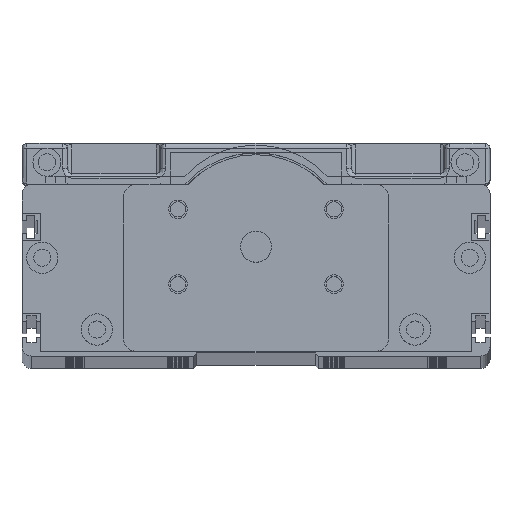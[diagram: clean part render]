
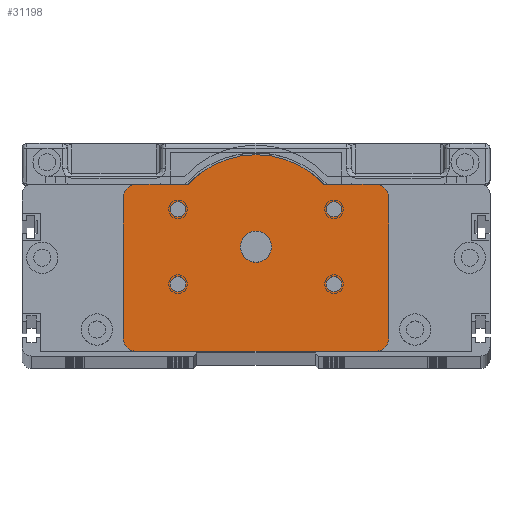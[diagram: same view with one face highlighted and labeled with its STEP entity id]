
A CAD part, top view. The second image highlights one B-rep face of the part: STEP entity #31198.
In plain terms, the highlighted planar face has unit normal (0, 0, 1).
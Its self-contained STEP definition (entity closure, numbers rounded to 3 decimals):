
#29840=CARTESIAN_POINT('',(38.5,49.5,29.));
#29841=DIRECTION('',(0.,0.,1.));
#29842=DIRECTION('',(1.,0.,0.));
#29843=AXIS2_PLACEMENT_3D('',#29840,#29841,#29842);
#29849=CARTESIAN_POINT('',(38.5,4.,29.));
#29850=DIRECTION('',(0.,0.,1.));
#29851=DIRECTION('',(0.,-1.,0.));
#29852=AXIS2_PLACEMENT_3D('',#29849,#29850,#29851);
#30001=CARTESIAN_POINT('',(-38.5,49.5,29.));
#30002=DIRECTION('',(0.,0.,1.));
#30003=DIRECTION('',(0.,1.,0.));
#30004=AXIS2_PLACEMENT_3D('',#30001,#30002,#30003);
#30015=DIRECTION('',(0.,1.,0.));
#30016=VECTOR('',#30015,45.5);
#30017=CARTESIAN_POINT('',(42.5,4.,29.));
#30018=LINE('',#30017,#30016);
#30019=DIRECTION('',(1.,0.,0.));
#30020=VECTOR('',#30019,77.);
#30021=CARTESIAN_POINT('',(-38.5,0.,29.));
#30022=LINE('',#30021,#30020);
#30023=DIRECTION('',(0.,1.,0.));
#30024=VECTOR('',#30023,45.5);
#30025=CARTESIAN_POINT('',(-42.5,4.,29.));
#30026=LINE('',#30025,#30024);
#30027=DIRECTION('',(-1.,0.,0.));
#30028=VECTOR('',#30027,16.815);
#30029=CARTESIAN_POINT('',(-21.685,53.5,29.));
#30030=LINE('',#30029,#30028);
#30031=CARTESIAN_POINT('',(0.,33.5,29.));
#30032=DIRECTION('',(0.,0.,1.));
#30033=DIRECTION('',(0.735,0.678,0.));
#30034=AXIS2_PLACEMENT_3D('',#30031,#30032,#30033);
#30036=DIRECTION('',(-1.,0.,0.));
#30037=VECTOR('',#30036,16.815);
#30038=CARTESIAN_POINT('',(38.5,53.5,29.));
#30039=LINE('',#30038,#30037);
#30040=CARTESIAN_POINT('',(0.,33.5,29.));
#30041=DIRECTION('',(0.,0.,1.));
#30042=DIRECTION('',(1.,0.,0.));
#30043=AXIS2_PLACEMENT_3D('',#30040,#30041,#30042);
#30045=CARTESIAN_POINT('',(0.,33.5,29.));
#30046=DIRECTION('',(0.,0.,1.));
#30047=DIRECTION('',(-1.,0.,0.));
#30048=AXIS2_PLACEMENT_3D('',#30045,#30046,#30047);
#30050=CARTESIAN_POINT('',(25.,45.5,29.));
#30051=DIRECTION('',(0.,0.,-1.));
#30052=DIRECTION('',(-1.,0.,0.));
#30053=AXIS2_PLACEMENT_3D('',#30050,#30051,#30052);
#30055=CARTESIAN_POINT('',(25.,45.5,29.));
#30056=DIRECTION('',(0.,0.,-1.));
#30057=DIRECTION('',(1.,0.,0.));
#30058=AXIS2_PLACEMENT_3D('',#30055,#30056,#30057);
#30060=CARTESIAN_POINT('',(25.,21.5,29.));
#30061=DIRECTION('',(0.,0.,1.));
#30062=DIRECTION('',(-1.,0.,0.));
#30063=AXIS2_PLACEMENT_3D('',#30060,#30061,#30062);
#30065=CARTESIAN_POINT('',(25.,21.5,29.));
#30066=DIRECTION('',(0.,0.,1.));
#30067=DIRECTION('',(1.,0.,0.));
#30068=AXIS2_PLACEMENT_3D('',#30065,#30066,#30067);
#30070=CARTESIAN_POINT('',(-25.,45.5,29.));
#30071=DIRECTION('',(0.,0.,1.));
#30072=DIRECTION('',(1.,0.,0.));
#30073=AXIS2_PLACEMENT_3D('',#30070,#30071,#30072);
#30075=CARTESIAN_POINT('',(-25.,45.5,29.));
#30076=DIRECTION('',(0.,0.,1.));
#30077=DIRECTION('',(-1.,0.,0.));
#30078=AXIS2_PLACEMENT_3D('',#30075,#30076,#30077);
#30080=CARTESIAN_POINT('',(-25.,21.5,29.));
#30081=DIRECTION('',(0.,0.,-1.));
#30082=DIRECTION('',(1.,0.,0.));
#30083=AXIS2_PLACEMENT_3D('',#30080,#30081,#30082);
#30085=CARTESIAN_POINT('',(-25.,21.5,29.));
#30086=DIRECTION('',(0.,0.,-1.));
#30087=DIRECTION('',(-1.,0.,0.));
#30088=AXIS2_PLACEMENT_3D('',#30085,#30086,#30087);
#30103=CARTESIAN_POINT('',(-38.5,4.,29.));
#30104=DIRECTION('',(0.,0.,1.));
#30105=DIRECTION('',(-1.,0.,0.));
#30106=AXIS2_PLACEMENT_3D('',#30103,#30104,#30105);
#30332=CARTESIAN_POINT('',(21.685,53.5,29.));
#30333=CARTESIAN_POINT('',(-21.685,53.5,29.));
#30334=VERTEX_POINT('',#30332);
#30335=VERTEX_POINT('',#30333);
#30380=CARTESIAN_POINT('',(38.5,53.5,29.));
#30382=VERTEX_POINT('',#30380);
#30384=CARTESIAN_POINT('',(42.5,49.5,29.));
#30386=VERTEX_POINT('',#30384);
#30389=CARTESIAN_POINT('',(38.5,0.,29.));
#30391=VERTEX_POINT('',#30389);
#30392=CARTESIAN_POINT('',(42.5,4.,29.));
#30393=VERTEX_POINT('',#30392);
#30397=CARTESIAN_POINT('',(-38.5,53.5,29.));
#30399=VERTEX_POINT('',#30397);
#30400=CARTESIAN_POINT('',(-42.5,49.5,29.));
#30401=VERTEX_POINT('',#30400);
#30404=CARTESIAN_POINT('',(-38.5,0.,29.));
#30406=VERTEX_POINT('',#30404);
#30408=CARTESIAN_POINT('',(-42.5,4.,29.));
#30410=VERTEX_POINT('',#30408);
#30420=CARTESIAN_POINT('',(22.5,45.5,29.));
#30421=CARTESIAN_POINT('',(27.5,45.5,29.));
#30422=VERTEX_POINT('',#30420);
#30423=VERTEX_POINT('',#30421);
#30428=CARTESIAN_POINT('',(22.5,21.5,29.));
#30429=CARTESIAN_POINT('',(27.5,21.5,29.));
#30430=VERTEX_POINT('',#30428);
#30431=VERTEX_POINT('',#30429);
#30436=CARTESIAN_POINT('',(-22.5,45.5,29.));
#30437=CARTESIAN_POINT('',(-27.5,45.5,29.));
#30438=VERTEX_POINT('',#30436);
#30439=VERTEX_POINT('',#30437);
#30444=CARTESIAN_POINT('',(-22.5,21.5,29.));
#30445=CARTESIAN_POINT('',(-27.5,21.5,29.));
#30446=VERTEX_POINT('',#30444);
#30447=VERTEX_POINT('',#30445);
#30568=CARTESIAN_POINT('',(5.,33.5,29.));
#30569=CARTESIAN_POINT('',(-5.,33.5,29.));
#30570=VERTEX_POINT('',#30568);
#30571=VERTEX_POINT('',#30569);
#31148=CARTESIAN_POINT('',(0.,0.,29.));
#31149=DIRECTION('',(0.,0.,1.));
#31150=DIRECTION('',(1.,0.,0.));
#31151=AXIS2_PLACEMENT_3D('',#31148,#31149,#31150);
#31152=PLANE('',#31151);
#31153=ORIENTED_EDGE('',*,*,#30888,.F.);
#31154=ORIENTED_EDGE('',*,*,#30902,.F.);
#31155=ORIENTED_EDGE('',*,*,#30914,.F.);
#31156=ORIENTED_EDGE('',*,*,#30932,.F.);
#31158=ORIENTED_EDGE('',*,*,#31157,.F.);
#31160=ORIENTED_EDGE('',*,*,#31159,.T.);
#31161=ORIENTED_EDGE('',*,*,#31140,.F.);
#31162=ORIENTED_EDGE('',*,*,#30874,.F.);
#31164=ORIENTED_EDGE('',*,*,#31163,.F.);
#31165=ORIENTED_EDGE('',*,*,#30842,.F.);
#31166=EDGE_LOOP('',(#31153,#31154,#31155,#31156,#31158,#31160,#31161,#31162,
#31164,#31165));
#31167=FACE_OUTER_BOUND('',#31166,.F.);
#31169=ORIENTED_EDGE('',*,*,#31168,.T.);
#31171=ORIENTED_EDGE('',*,*,#31170,.T.);
#31172=EDGE_LOOP('',(#31169,#31171));
#31173=FACE_BOUND('',#31172,.F.);
#31175=ORIENTED_EDGE('',*,*,#31174,.F.);
#31177=ORIENTED_EDGE('',*,*,#31176,.F.);
#31178=EDGE_LOOP('',(#31175,#31177));
#31179=FACE_BOUND('',#31178,.F.);
#31181=ORIENTED_EDGE('',*,*,#31180,.T.);
#31183=ORIENTED_EDGE('',*,*,#31182,.T.);
#31184=EDGE_LOOP('',(#31181,#31183));
#31185=FACE_BOUND('',#31184,.F.);
#31187=ORIENTED_EDGE('',*,*,#31186,.T.);
#31189=ORIENTED_EDGE('',*,*,#31188,.T.);
#31190=EDGE_LOOP('',(#31187,#31189));
#31191=FACE_BOUND('',#31190,.F.);
#31193=ORIENTED_EDGE('',*,*,#31192,.F.);
#31195=ORIENTED_EDGE('',*,*,#31194,.F.);
#31196=EDGE_LOOP('',(#31193,#31195));
#31197=FACE_BOUND('',#31196,.F.);
#31198=ADVANCED_FACE('',(#31167,#31173,#31179,#31185,#31191,#31197),#31152,.T.);
#29844=CIRCLE('',#29843,4.);
#29853=CIRCLE('',#29852,4.);
#30005=CIRCLE('',#30004,4.);
#30035=CIRCLE('',#30034,29.5);
#30044=CIRCLE('',#30043,5.);
#30049=CIRCLE('',#30048,5.);
#30054=CIRCLE('',#30053,2.5);
#30059=CIRCLE('',#30058,2.5);
#30064=CIRCLE('',#30063,2.5);
#30069=CIRCLE('',#30068,2.5);
#30074=CIRCLE('',#30073,2.5);
#30079=CIRCLE('',#30078,2.5);
#30084=CIRCLE('',#30083,2.5);
#30089=CIRCLE('',#30088,2.5);
#30107=CIRCLE('',#30106,4.);
#30842=EDGE_CURVE('',#30382,#30334,#30039,.T.);
#30874=EDGE_CURVE('',#30335,#30399,#30030,.T.);
#30888=EDGE_CURVE('',#30386,#30382,#29844,.T.);
#30902=EDGE_CURVE('',#30393,#30386,#30018,.T.);
#30914=EDGE_CURVE('',#30391,#30393,#29853,.T.);
#30932=EDGE_CURVE('',#30406,#30391,#30022,.T.);
#31140=EDGE_CURVE('',#30399,#30401,#30005,.T.);
#31157=EDGE_CURVE('',#30410,#30406,#30107,.T.);
#31159=EDGE_CURVE('',#30410,#30401,#30026,.T.);
#31163=EDGE_CURVE('',#30334,#30335,#30035,.T.);
#31168=EDGE_CURVE('',#30570,#30571,#30044,.T.);
#31170=EDGE_CURVE('',#30571,#30570,#30049,.T.);
#31174=EDGE_CURVE('',#30422,#30423,#30054,.T.);
#31176=EDGE_CURVE('',#30423,#30422,#30059,.T.);
#31180=EDGE_CURVE('',#30430,#30431,#30064,.T.);
#31182=EDGE_CURVE('',#30431,#30430,#30069,.T.);
#31186=EDGE_CURVE('',#30438,#30439,#30074,.T.);
#31188=EDGE_CURVE('',#30439,#30438,#30079,.T.);
#31192=EDGE_CURVE('',#30446,#30447,#30084,.T.);
#31194=EDGE_CURVE('',#30447,#30446,#30089,.T.);
